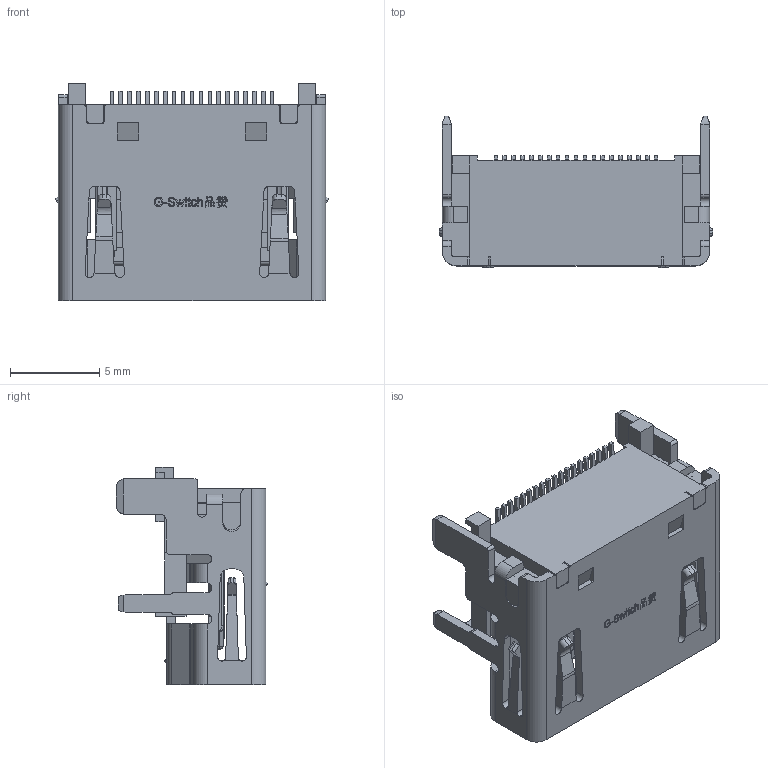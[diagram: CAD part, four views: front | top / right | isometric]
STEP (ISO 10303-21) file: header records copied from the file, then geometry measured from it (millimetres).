
FILE_DESCRIPTION (( 'STEP AP214' ), '1' );
FILE_NAME ('GT-HD002A-XXXGX.stp', '2024-06-28T09:02:35', ( '' ), ( '' ), 'SwSTEP 2.0', 'SolidWorks 2023', '' );
FILE_SCHEMA (( 'AUTOMOTIVE_DESIGN' ));
Length unit declared in the file: millimetre
Products named in the file (1): GT-HD002A-XXXGX
Bounding box: 15.34 x 8.51 x 12.2 mm (x, y, z)
Volume: 462.7 mm3; surface area: 1338.3 mm2
Topology: 1 solids, 1 shells, 1289 faces, 3784 edges, 2410 vertices
Faces by surface type: plane 908, cylinder 281, bspline 86, cone 8, sphere 6
Entity records: 46763 total; most frequent: CARTESIAN_POINT 12727, ORIENTED_EDGE 7564, DIRECTION 6493, EDGE_CURVE 3782, VECTOR 3019, LINE 3019, VERTEX_POINT 2410, AXIS2_PLACEMENT_3D 1737
